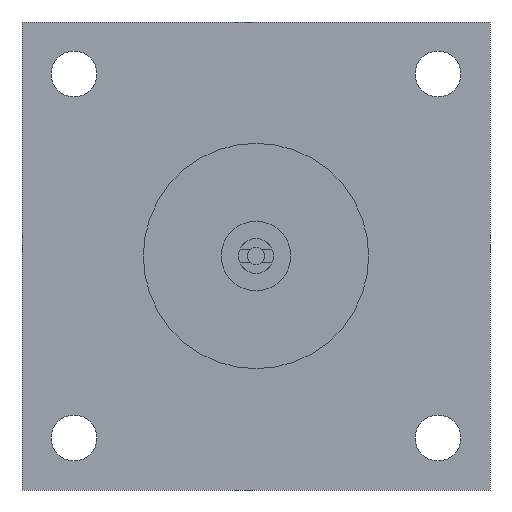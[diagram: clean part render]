
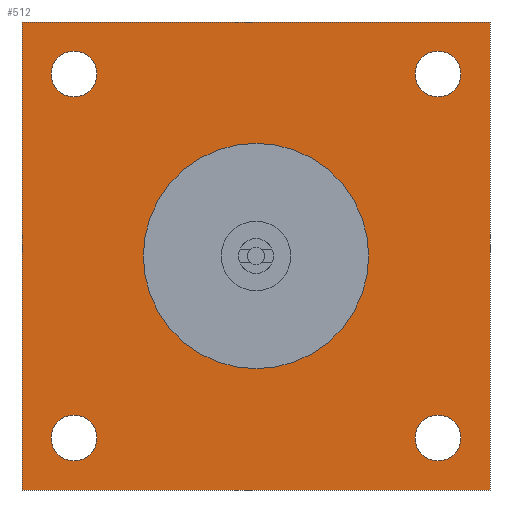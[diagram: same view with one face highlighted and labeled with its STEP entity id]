
A CAD part, left-side view. The second image highlights one B-rep face of the part: STEP entity #512.
In plain terms, the highlighted planar face has unit normal (-1, 0, 0).
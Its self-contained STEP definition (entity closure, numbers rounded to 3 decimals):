
#42 = EDGE_CURVE ( 'NONE', #1273, #1709, #1427, .T. ) ;
#96 = DIRECTION ( 'NONE',  ( 0., 0., -1. ) ) ;
#111 = VECTOR ( 'NONE', #1663, 1000. ) ;
#115 = CARTESIAN_POINT ( 'NONE',  ( -25., -105., -91.75 ) ) ;
#122 = DIRECTION ( 'NONE',  ( -1., 0., 0. ) ) ;
#134 = LINE ( 'NONE', #1697, #111 ) ;
#141 = CARTESIAN_POINT ( 'NONE',  ( -25., -105., -105. ) ) ;
#150 = DIRECTION ( 'NONE',  ( 0., 0., 1. ) ) ;
#173 = ORIENTED_EDGE ( 'NONE', *, *, #1426, .F. ) ;
#176 = CARTESIAN_POINT ( 'NONE',  ( -25., 105., -105. ) ) ;
#202 = CARTESIAN_POINT ( 'NONE',  ( -25., 105., 105. ) ) ;
#208 = DIRECTION ( 'NONE',  ( -1., 0., 0. ) ) ;
#218 = DIRECTION ( 'NONE',  ( 0., 0., 1. ) ) ;
#238 = AXIS2_PLACEMENT_3D ( 'NONE', #614, #622, #624 ) ;
#245 = VERTEX_POINT ( 'NONE', #1380 ) ;
#249 = VERTEX_POINT ( 'NONE', #1413 ) ;
#270 = EDGE_LOOP ( 'NONE', ( #173, #417 ) ) ;
#271 = EDGE_LOOP ( 'NONE', ( #1268, #1515, #617, #714 ) ) ;
#277 = LINE ( 'NONE', #850, #320 ) ;
#320 = VECTOR ( 'NONE', #1493, 1000. ) ;
#329 = EDGE_CURVE ( 'NONE', #1783, #1007, #1794, .T. ) ;
#330 = CARTESIAN_POINT ( 'NONE',  ( -25., 0., 0. ) ) ;
#332 = CARTESIAN_POINT ( 'NONE',  ( -25., -105., 91.75 ) ) ;
#334 = CARTESIAN_POINT ( 'NONE',  ( -25., 0., 0. ) ) ;
#346 = DIRECTION ( 'NONE',  ( -1., 0., 0. ) ) ;
#352 = DIRECTION ( 'NONE',  ( 0., 0., -1. ) ) ;
#376 = CARTESIAN_POINT ( 'NONE',  ( -25., -135., 135. ) ) ;
#383 = CARTESIAN_POINT ( 'NONE',  ( -25., 105., -105. ) ) ;
#400 = CARTESIAN_POINT ( 'NONE',  ( -25., -135., -135. ) ) ;
#412 = EDGE_CURVE ( 'NONE', #1326, #837, #1679, .T. ) ;
#415 = ORIENTED_EDGE ( 'NONE', *, *, #412, .F. ) ;
#416 = CARTESIAN_POINT ( 'NONE',  ( -25., 0., 0. ) ) ;
#417 = ORIENTED_EDGE ( 'NONE', *, *, #1196, .F. ) ;
#428 = DIRECTION ( 'NONE',  ( -1., 0., 0. ) ) ;
#460 = EDGE_LOOP ( 'NONE', ( #415, #526 ) ) ;
#462 = EDGE_LOOP ( 'NONE', ( #654, #779 ) ) ;
#470 = DIRECTION ( 'NONE',  ( -1., 0., 0. ) ) ;
#475 = EDGE_CURVE ( 'NONE', #245, #1183, #1607, .T. ) ;
#479 = PLANE ( 'NONE',  #1297 ) ;
#480 = EDGE_LOOP ( 'NONE', ( #980, #731 ) ) ;
#484 = DIRECTION ( 'NONE',  ( 0., 0., -1. ) ) ;
#489 = VERTEX_POINT ( 'NONE', #376 ) ;
#512 = ADVANCED_FACE ( 'NONE', ( #1543, #1558, #1566, #1516, #1513, #1511 ), #479, .F. ) ;
#521 = DIRECTION ( 'NONE',  ( -1., 0., 0. ) ) ;
#523 = CIRCLE ( 'NONE', #1520, 13.25 ) ;
#524 = DIRECTION ( 'NONE',  ( 1., 0., 0. ) ) ;
#526 = ORIENTED_EDGE ( 'NONE', *, *, #1157, .F. ) ;
#529 = DIRECTION ( 'NONE',  ( 0., 0., -1. ) ) ;
#570 = VERTEX_POINT ( 'NONE', #115 ) ;
#588 = DIRECTION ( 'NONE',  ( 0., 0., 1. ) ) ;
#614 = CARTESIAN_POINT ( 'NONE',  ( -25., -105., 105. ) ) ;
#617 = ORIENTED_EDGE ( 'NONE', *, *, #1648, .T. ) ;
#620 = DIRECTION ( 'NONE',  ( 0., 0., 1. ) ) ;
#622 = DIRECTION ( 'NONE',  ( -1., 0., 0. ) ) ;
#624 = DIRECTION ( 'NONE',  ( 0., 0., 1. ) ) ;
#625 = EDGE_LOOP ( 'NONE', ( #1206, #1116 ) ) ;
#654 = ORIENTED_EDGE ( 'NONE', *, *, #940, .F. ) ;
#673 = CARTESIAN_POINT ( 'NONE',  ( -25., -105., 118.25 ) ) ;
#699 = EDGE_CURVE ( 'NONE', #1714, #489, #1267, .T. ) ;
#714 = ORIENTED_EDGE ( 'NONE', *, *, #1130, .T. ) ;
#715 = AXIS2_PLACEMENT_3D ( 'NONE', #383, #470, #620 ) ;
#731 = ORIENTED_EDGE ( 'NONE', *, *, #805, .F. ) ;
#733 = CIRCLE ( 'NONE', #847, 13.25 ) ;
#764 = CARTESIAN_POINT ( 'NONE',  ( -25., 135., 135. ) ) ;
#770 = CARTESIAN_POINT ( 'NONE',  ( -25., 105., 118.25 ) ) ;
#775 = CIRCLE ( 'NONE', #844, 13.25 ) ;
#778 = CIRCLE ( 'NONE', #880, 13.25 ) ;
#779 = ORIENTED_EDGE ( 'NONE', *, *, #475, .F. ) ;
#780 = VECTOR ( 'NONE', #96, 1000. ) ;
#791 = AXIS2_PLACEMENT_3D ( 'NONE', #330, #346, #352 ) ;
#805 = EDGE_CURVE ( 'NONE', #1709, #1273, #1139, .T. ) ;
#829 = VERTEX_POINT ( 'NONE', #1530 ) ;
#837 = VERTEX_POINT ( 'NONE', #1523 ) ;
#844 = AXIS2_PLACEMENT_3D ( 'NONE', #141, #122, #150 ) ;
#845 = CARTESIAN_POINT ( 'NONE',  ( -25., 105., -91.75 ) ) ;
#847 = AXIS2_PLACEMENT_3D ( 'NONE', #176, #208, #218 ) ;
#850 = CARTESIAN_POINT ( 'NONE',  ( -25., 135., 135. ) ) ;
#873 = LINE ( 'NONE', #764, #780 ) ;
#880 = AXIS2_PLACEMENT_3D ( 'NONE', #202, #521, #588 ) ;
#886 = VERTEX_POINT ( 'NONE', #1671 ) ;
#932 = DIRECTION ( 'NONE',  ( 0., 0., 1. ) ) ;
#940 = EDGE_CURVE ( 'NONE', #1183, #245, #999, .T. ) ;
#944 = DIRECTION ( 'NONE',  ( -1., 0., 0. ) ) ;
#955 = CARTESIAN_POINT ( 'NONE',  ( -25., -105., -105. ) ) ;
#970 = AXIS2_PLACEMENT_3D ( 'NONE', #334, #428, #484 ) ;
#980 = ORIENTED_EDGE ( 'NONE', *, *, #42, .F. ) ;
#999 = CIRCLE ( 'NONE', #970, 65. ) ;
#1007 = VERTEX_POINT ( 'NONE', #845 ) ;
#1027 = CARTESIAN_POINT ( 'NONE',  ( -25., -135., 135. ) ) ;
#1049 = DIRECTION ( 'NONE',  ( 0., 0., 1. ) ) ;
#1116 = ORIENTED_EDGE ( 'NONE', *, *, #329, .F. ) ;
#1123 = AXIS2_PLACEMENT_3D ( 'NONE', #1230, #1171, #1423 ) ;
#1130 = EDGE_CURVE ( 'NONE', #249, #886, #873, .T. ) ;
#1139 = CIRCLE ( 'NONE', #1251, 13.25 ) ;
#1157 = EDGE_CURVE ( 'NONE', #837, #1326, #778, .T. ) ;
#1171 = DIRECTION ( 'NONE',  ( -1., 0., 0. ) ) ;
#1183 = VERTEX_POINT ( 'NONE', #1777 ) ;
#1196 = EDGE_CURVE ( 'NONE', #829, #570, #775, .T. ) ;
#1206 = ORIENTED_EDGE ( 'NONE', *, *, #1208, .F. ) ;
#1208 = EDGE_CURVE ( 'NONE', #1007, #1783, #733, .T. ) ;
#1230 = CARTESIAN_POINT ( 'NONE',  ( -25., 105., 105. ) ) ;
#1251 = AXIS2_PLACEMENT_3D ( 'NONE', #1537, #1545, #1552 ) ;
#1267 = LINE ( 'NONE', #1027, #1393 ) ;
#1268 = ORIENTED_EDGE ( 'NONE', *, *, #1708, .T. ) ;
#1273 = VERTEX_POINT ( 'NONE', #673 ) ;
#1297 = AXIS2_PLACEMENT_3D ( 'NONE', #416, #524, #529 ) ;
#1326 = VERTEX_POINT ( 'NONE', #770 ) ;
#1380 = CARTESIAN_POINT ( 'NONE',  ( -25., 0., 65. ) ) ;
#1393 = VECTOR ( 'NONE', #1049, 1000. ) ;
#1413 = CARTESIAN_POINT ( 'NONE',  ( -25., 135., 135. ) ) ;
#1423 = DIRECTION ( 'NONE',  ( 0., 0., 1. ) ) ;
#1426 = EDGE_CURVE ( 'NONE', #570, #829, #523, .T. ) ;
#1427 = CIRCLE ( 'NONE', #238, 13.25 ) ;
#1493 = DIRECTION ( 'NONE',  ( 0., 1., 0. ) ) ;
#1511 = FACE_OUTER_BOUND ( 'NONE', #271, .T. ) ;
#1513 = FACE_BOUND ( 'NONE', #625, .T. ) ;
#1515 = ORIENTED_EDGE ( 'NONE', *, *, #699, .T. ) ;
#1516 = FACE_BOUND ( 'NONE', #460, .T. ) ;
#1520 = AXIS2_PLACEMENT_3D ( 'NONE', #955, #944, #932 ) ;
#1523 = CARTESIAN_POINT ( 'NONE',  ( -25., 105., 91.75 ) ) ;
#1530 = CARTESIAN_POINT ( 'NONE',  ( -25., -105., -118.25 ) ) ;
#1537 = CARTESIAN_POINT ( 'NONE',  ( -25., -105., 105. ) ) ;
#1543 = FACE_BOUND ( 'NONE', #462, .T. ) ;
#1545 = DIRECTION ( 'NONE',  ( -1., 0., 0. ) ) ;
#1552 = DIRECTION ( 'NONE',  ( 0., 0., 1. ) ) ;
#1558 = FACE_BOUND ( 'NONE', #480, .T. ) ;
#1566 = FACE_BOUND ( 'NONE', #270, .T. ) ;
#1607 = CIRCLE ( 'NONE', #791, 65. ) ;
#1648 = EDGE_CURVE ( 'NONE', #489, #249, #277, .T. ) ;
#1663 = DIRECTION ( 'NONE',  ( 0., -1., 0. ) ) ;
#1671 = CARTESIAN_POINT ( 'NONE',  ( -25., 135., -135. ) ) ;
#1679 = CIRCLE ( 'NONE', #1123, 13.25 ) ;
#1697 = CARTESIAN_POINT ( 'NONE',  ( -25., 135., -135. ) ) ;
#1708 = EDGE_CURVE ( 'NONE', #886, #1714, #134, .T. ) ;
#1709 = VERTEX_POINT ( 'NONE', #332 ) ;
#1714 = VERTEX_POINT ( 'NONE', #400 ) ;
#1768 = CARTESIAN_POINT ( 'NONE',  ( -25., 105., -118.25 ) ) ;
#1777 = CARTESIAN_POINT ( 'NONE',  ( -25., 0., -65. ) ) ;
#1783 = VERTEX_POINT ( 'NONE', #1768 ) ;
#1794 = CIRCLE ( 'NONE', #715, 13.25 ) ;
